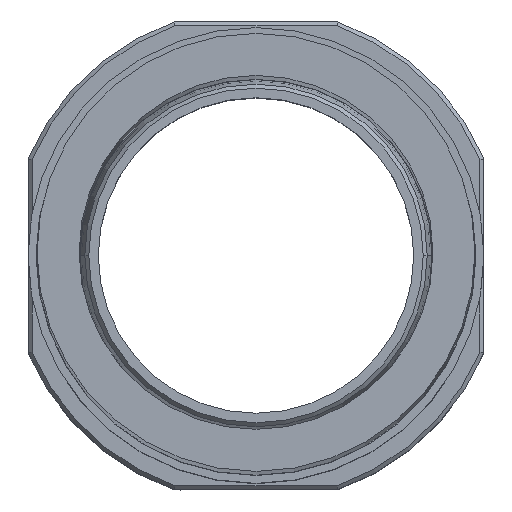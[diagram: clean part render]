
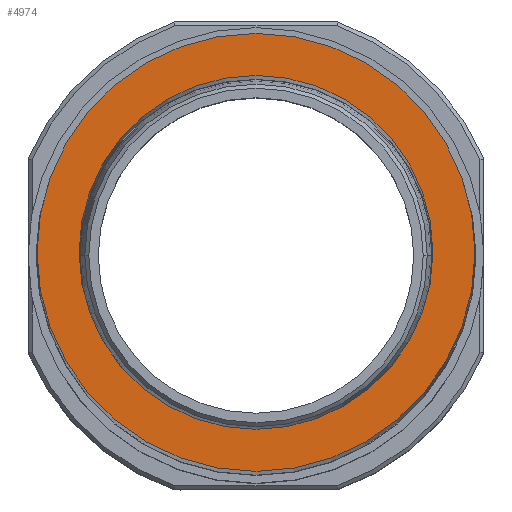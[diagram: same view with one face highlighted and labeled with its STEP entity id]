
A CAD part, top view. The second image highlights one B-rep face of the part: STEP entity #4974.
In plain terms, the highlighted planar face has unit normal (0, 0, 1).
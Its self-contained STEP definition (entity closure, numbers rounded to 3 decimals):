
#195 = CIRCLE ( 'NONE', #27631, 44.65 ) ;
#248 = CIRCLE ( 'NONE', #8075, 44.65 ) ;
#1069 = EDGE_CURVE ( 'NONE', #16912, #18150, #248, .T. ) ;
#1199 = AXIS2_PLACEMENT_3D ( 'NONE', #26769, #24729, #12960 ) ;
#1519 = EDGE_LOOP ( 'NONE', ( #15318, #12327 ) ) ;
#1916 = CIRCLE ( 'NONE', #22743, 55.25 ) ;
#2069 = DIRECTION ( 'NONE',  ( 1., 0., 0. ) ) ;
#2383 = VERTEX_POINT ( 'NONE', #18190 ) ;
#3621 = EDGE_CURVE ( 'NONE', #18150, #16912, #195, .T. ) ;
#3748 = CARTESIAN_POINT ( 'NONE',  ( 0., 0., 500. ) ) ;
#4795 = FACE_OUTER_BOUND ( 'NONE', #23257, .T. ) ;
#4974 = ADVANCED_FACE ( 'NONE', ( #4795, #28616 ), #22401, .T. ) ;
#6428 = DIRECTION ( 'NONE',  ( 0., 0., 1. ) ) ;
#6464 = ORIENTED_EDGE ( 'NONE', *, *, #11978, .T. ) ;
#8075 = AXIS2_PLACEMENT_3D ( 'NONE', #25853, #28198, #14383 ) ;
#9907 = DIRECTION ( 'NONE',  ( 0., 0., 1. ) ) ;
#10300 = AXIS2_PLACEMENT_3D ( 'NONE', #3748, #24701, #10919 ) ;
#10919 = DIRECTION ( 'NONE',  ( 1., 0., 0. ) ) ;
#11804 = CARTESIAN_POINT ( 'NONE',  ( 0., 0., 500. ) ) ;
#11978 = EDGE_CURVE ( 'NONE', #26677, #2383, #25270, .T. ) ;
#12327 = ORIENTED_EDGE ( 'NONE', *, *, #1069, .F. ) ;
#12960 = DIRECTION ( 'NONE',  ( 1., 0., 0. ) ) ;
#14383 = DIRECTION ( 'NONE',  ( 1., 0., 0. ) ) ;
#15318 = ORIENTED_EDGE ( 'NONE', *, *, #3621, .F. ) ;
#15908 = CARTESIAN_POINT ( 'NONE',  ( 0., 0., 500. ) ) ;
#16912 = VERTEX_POINT ( 'NONE', #28253 ) ;
#18150 = VERTEX_POINT ( 'NONE', #25441 ) ;
#18190 = CARTESIAN_POINT ( 'NONE',  ( -55.25, 0., 500. ) ) ;
#19852 = EDGE_CURVE ( 'NONE', #2383, #26677, #1916, .T. ) ;
#20302 = CARTESIAN_POINT ( 'NONE',  ( 55.25, 0., 500. ) ) ;
#21178 = DIRECTION ( 'NONE',  ( 1., 0., 0. ) ) ;
#22401 = PLANE ( 'NONE',  #10300 ) ;
#22743 = AXIS2_PLACEMENT_3D ( 'NONE', #15908, #6428, #2069 ) ;
#23257 = EDGE_LOOP ( 'NONE', ( #23852, #6464 ) ) ;
#23852 = ORIENTED_EDGE ( 'NONE', *, *, #19852, .T. ) ;
#24701 = DIRECTION ( 'NONE',  ( 0., 0., 1. ) ) ;
#24729 = DIRECTION ( 'NONE',  ( 0., 0., 1. ) ) ;
#25270 = CIRCLE ( 'NONE', #1199, 55.25 ) ;
#25441 = CARTESIAN_POINT ( 'NONE',  ( -44.65, 0., 500. ) ) ;
#25853 = CARTESIAN_POINT ( 'NONE',  ( 0., 0., 500. ) ) ;
#26677 = VERTEX_POINT ( 'NONE', #20302 ) ;
#26769 = CARTESIAN_POINT ( 'NONE',  ( 0., 0., 500. ) ) ;
#27631 = AXIS2_PLACEMENT_3D ( 'NONE', #11804, #9907, #21178 ) ;
#28198 = DIRECTION ( 'NONE',  ( 0., 0., 1. ) ) ;
#28253 = CARTESIAN_POINT ( 'NONE',  ( 44.65, 0., 500. ) ) ;
#28616 = FACE_BOUND ( 'NONE', #1519, .T. ) ;
